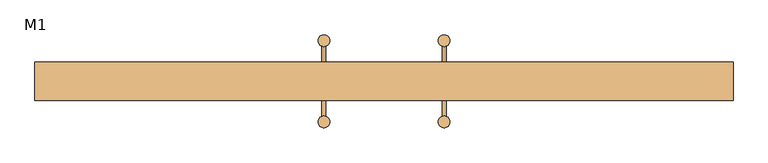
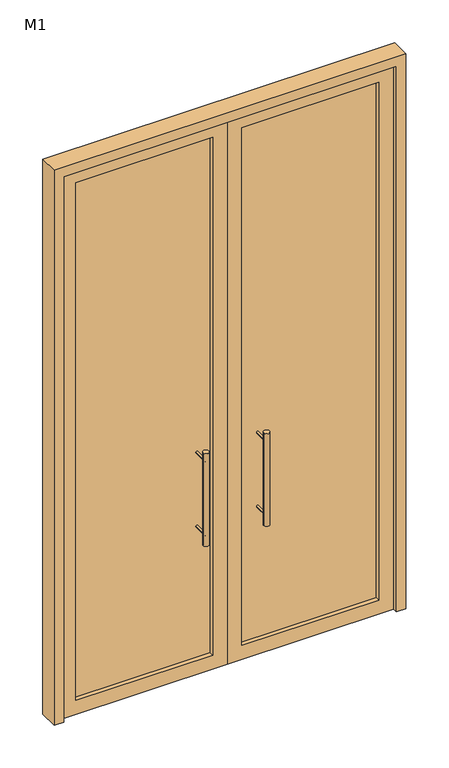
"""IFC4 building model written with IfcOpenShell, lengths in millimetres: door geometry, 双面嵌板玻璃门 : M1."""

from ifc_helpers import new_model, si_unit, point, frame, frame_2d, origin, place, context, project, spatial, polyline, circle_curve, trimmed, segment, composite_curve, outline, extrude, source, transform, mapped, element, save


def m1_435fa931(model_context):
    return source(origin(), model_context, "Body", "SweptSolid", [
        extrude(outline(composite_curve([segment(trimmed(circle_curve(frame_2d((155.0, -105.0)), 15.0), [point((140.0, -105.0))], [point((170.0, -105.0))], False, "CARTESIAN"), True, "CONTINUOUS"), segment(trimmed(circle_curve(frame_2d((155.0, -105.0)), 15.0), [point((170.0, -105.0))], [point((140.0, -105.0))], False, "CARTESIAN"), True, "CONTINUOUS")], self_intersect=False)), frame((0.0, 0.0, 750.0), z_axis=(0.0, 0.0, 1.0), x_axis=(1.0, 0.0, 0.0)), (0.0, 0.0, 1.0), 500.0),
        extrude(outline(composite_curve([segment(trimmed(circle_curve(frame_2d((1200.0, 155.0)), 5.0), [point((1200.0, 150.0))], [point((1200.0, 160.0))], False, "CARTESIAN"), True, "CONTINUOUS"), segment(trimmed(circle_curve(frame_2d((1200.0, 155.0)), 5.0), [point((1200.0, 160.0))], [point((1200.0, 150.0))], False, "CARTESIAN"), True, "CONTINUOUS")], self_intersect=False)), frame((0.0, -105.0, 0.0), z_axis=(0.0, 1.0, 0.0), x_axis=(0.0, 0.0, 1.0)), (0.0, 0.0, 1.0), 80.0),
        extrude(outline(composite_curve([segment(trimmed(circle_curve(frame_2d((800.0, 155.0)), 5.0), [point((800.0, 150.0))], [point((800.0, 160.0))], False, "CARTESIAN"), True, "CONTINUOUS"), segment(trimmed(circle_curve(frame_2d((800.0, 155.0)), 5.0), [point((800.0, 160.0))], [point((800.0, 150.0))], False, "CARTESIAN"), True, "CONTINUOUS")], self_intersect=False)), frame((0.0, -105.0, 0.0), z_axis=(0.0, 1.0, 0.0), x_axis=(0.0, 0.0, 1.0)), (0.0, 0.0, 1.0), 80.0),
        extrude(outline(composite_curve([segment(trimmed(circle_curve(frame_2d((1200.0, 155.0)), 5.0), [point((1200.0, 150.0))], [point((1200.0, 160.0))], False, "CARTESIAN"), True, "CONTINUOUS"), segment(trimmed(circle_curve(frame_2d((1200.0, 155.0)), 5.0), [point((1200.0, 160.0))], [point((1200.0, 150.0))], False, "CARTESIAN"), True, "CONTINUOUS")], self_intersect=False)), frame((0.0, 25.0, 0.0), z_axis=(0.0, 1.0, 0.0), x_axis=(0.0, 0.0, 1.0)), (0.0, 0.0, 1.0), 80.0),
        extrude(outline(composite_curve([segment(trimmed(circle_curve(frame_2d((800.0, 155.0)), 5.0), [point((800.0, 150.0))], [point((800.0, 160.0))], False, "CARTESIAN"), True, "CONTINUOUS"), segment(trimmed(circle_curve(frame_2d((800.0, 155.0)), 5.0), [point((800.0, 160.0))], [point((800.0, 150.0))], False, "CARTESIAN"), True, "CONTINUOUS")], self_intersect=False)), frame((0.0, 25.0, 0.0), z_axis=(0.0, 1.0, 0.0), x_axis=(0.0, 0.0, 1.0)), (0.0, 0.0, 1.0), 80.0),
        extrude(outline(composite_curve([segment(trimmed(circle_curve(frame_2d((155.0, 105.0)), 15.0), [point((140.0, 105.0))], [point((170.0, 105.0))], False, "CARTESIAN"), True, "CONTINUOUS"), segment(trimmed(circle_curve(frame_2d((155.0, 105.0)), 15.0), [point((170.0, 105.0))], [point((140.0, 105.0))], False, "CARTESIAN"), True, "CONTINUOUS")], self_intersect=False)), frame((0.0, 0.0, 750.0), z_axis=(0.0, 0.0, 1.0), x_axis=(1.0, 0.0, 0.0)), (0.0, 0.0, 1.0), 500.0),
        extrude(outline(composite_curve([segment(trimmed(circle_curve(frame_2d((-155.0, -105.0)), 15.0), [point((-170.0, -105.0))], [point((-140.0, -105.0))], False, "CARTESIAN"), True, "CONTINUOUS"), segment(trimmed(circle_curve(frame_2d((-155.0, -105.0)), 15.0), [point((-140.0, -105.0))], [point((-170.0, -105.0))], False, "CARTESIAN"), True, "CONTINUOUS")], self_intersect=False)), frame((0.0, 0.0, 750.0), z_axis=(0.0, 0.0, 1.0), x_axis=(1.0, 0.0, 0.0)), (0.0, 0.0, 1.0), 500.0),
        extrude(outline(composite_curve([segment(trimmed(circle_curve(frame_2d((1200.0, -155.0)), 5.0), [point((1200.0, -160.0))], [point((1200.0, -150.0))], False, "CARTESIAN"), True, "CONTINUOUS"), segment(trimmed(circle_curve(frame_2d((1200.0, -155.0)), 5.0), [point((1200.0, -150.0))], [point((1200.0, -160.0))], False, "CARTESIAN"), True, "CONTINUOUS")], self_intersect=False)), frame((0.0, -105.0, 0.0), z_axis=(0.0, 1.0, 0.0), x_axis=(0.0, 0.0, 1.0)), (0.0, 0.0, 1.0), 80.0),
        extrude(outline(composite_curve([segment(trimmed(circle_curve(frame_2d((800.0, -155.0)), 5.0), [point((800.0, -160.0))], [point((800.0, -150.0))], False, "CARTESIAN"), True, "CONTINUOUS"), segment(trimmed(circle_curve(frame_2d((800.0, -155.0)), 5.0), [point((800.0, -150.0))], [point((800.0, -160.0))], False, "CARTESIAN"), True, "CONTINUOUS")], self_intersect=False)), frame((0.0, -105.0, 0.0), z_axis=(0.0, 1.0, 0.0), x_axis=(0.0, 0.0, 1.0)), (0.0, 0.0, 1.0), 80.0),
        extrude(outline(composite_curve([segment(trimmed(circle_curve(frame_2d((1200.0, -155.0)), 5.0), [point((1200.0, -160.0))], [point((1200.0, -150.0))], False, "CARTESIAN"), True, "CONTINUOUS"), segment(trimmed(circle_curve(frame_2d((1200.0, -155.0)), 5.0), [point((1200.0, -150.0))], [point((1200.0, -160.0))], False, "CARTESIAN"), True, "CONTINUOUS")], self_intersect=False)), frame((0.0, 25.0, 0.0), z_axis=(0.0, 1.0, 0.0), x_axis=(0.0, 0.0, 1.0)), (0.0, 0.0, 1.0), 80.0),
        extrude(outline(composite_curve([segment(trimmed(circle_curve(frame_2d((800.0, -155.0)), 5.0), [point((800.0, -160.0))], [point((800.0, -150.0))], False, "CARTESIAN"), True, "CONTINUOUS"), segment(trimmed(circle_curve(frame_2d((800.0, -155.0)), 5.0), [point((800.0, -150.0))], [point((800.0, -160.0))], False, "CARTESIAN"), True, "CONTINUOUS")], self_intersect=False)), frame((0.0, 25.0, 0.0), z_axis=(0.0, 1.0, 0.0), x_axis=(0.0, 0.0, 1.0)), (0.0, 0.0, 1.0), 80.0),
        extrude(outline(composite_curve([segment(trimmed(circle_curve(frame_2d((-155.0, 105.0)), 15.0), [point((-170.0, 105.0))], [point((-140.0, 105.0))], False, "CARTESIAN"), True, "CONTINUOUS"), segment(trimmed(circle_curve(frame_2d((-155.0, 105.0)), 15.0), [point((-140.0, 105.0))], [point((-170.0, 105.0))], False, "CARTESIAN"), True, "CONTINUOUS")], self_intersect=False)), frame((0.0, 0.0, 750.0), z_axis=(0.0, 0.0, 1.0), x_axis=(1.0, 0.0, 0.0)), (0.0, 0.0, 1.0), 500.0),
        extrude(outline(polyline([(75.0, -2.0), (75.0, 2.0), (775.0, 2.0), (775.0, -2.0), (75.0, -2.0)])), frame((0.0, 0.0, 75.0), z_axis=(0.0, 0.0, 1.0), x_axis=(1.0, 0.0, 0.0)), (0.0, 0.0, 1.0), 2800.0),
        extrude(outline(polyline([(-775.0, -2.0), (-775.0, 2.0), (-75.0, 2.0), (-75.0, -2.0), (-775.0, -2.0)])), frame((0.0, 0.0, 75.0), z_axis=(0.0, 0.0, 1.0), x_axis=(1.0, 0.0, 0.0)), (0.0, 0.0, 1.0), 2800.0),
        extrude(outline(polyline([(2950.0, 0.0), (2950.0, -850.0), (0.0, -850.0), (0.0, 0.0), (2950.0, 0.0)]), holes=[polyline([(2875.0, -775.0), (2875.0, -75.0), (75.0, -75.0), (75.0, -775.0), (2875.0, -775.0)])]), frame((0.0, -25.0, 0.0), z_axis=(0.0, 1.0, 0.0), x_axis=(0.0, 0.0, 1.0)), (0.0, 0.0, 1.0), 50.0),
        extrude(outline(polyline([(2950.0, 0.0), (0.0, 0.0), (0.0, 850.0), (2950.0, 850.0), (2950.0, 0.0)]), holes=[polyline([(2875.0, 775.0), (75.0, 775.0), (75.0, 75.0), (2875.0, 75.0), (2875.0, 775.0)])]), frame((0.0, -25.0, 0.0), z_axis=(0.0, 1.0, 0.0), x_axis=(0.0, 0.0, 1.0)), (0.0, 0.0, 1.0), 50.0),
        extrude(outline(polyline([(3000.0, 900.0), (3000.0, -900.0), (0.0, -900.0), (0.0, -850.0), (2950.0, -850.0), (2950.0, 850.0), (0.0, 850.0), (0.0, 900.0), (3000.0, 900.0)])), frame((0.0, -50.0, 0.0), z_axis=(0.0, 1.0, 0.0), x_axis=(0.0, 0.0, 1.0)), (0.0, 0.0, 1.0), 100.0),
    ])


if __name__ == "__main__":
    model = new_model("IFC4")
    model_context = context("Model", 3, world=origin())
    ifc_project = project(units=[si_unit("LENGTHUNIT", "METRE", prefix="MILLI")], contexts=[model_context])
    site = spatial("IfcSite", under=ifc_project)
    building = spatial("IfcBuilding", under=site)
    placement = place(None, origin())
    m1_shape = m1_435fa931(model_context)
    element("IfcDoor", 1, ObjectType="双面嵌板玻璃门 : M1", at=placement, inside=building, context=model_context, shape_type="MappedRepresentation", body=[
        mapped(m1_shape, transform((0.0, 0.0, 0.0), x_axis=(1.0, 0.0, 0.0), y_axis=(0.0, 1.0, 0.0), z_axis=(0.0, 0.0, 1.0))),
    ])
    save(model, "model.ifc")
